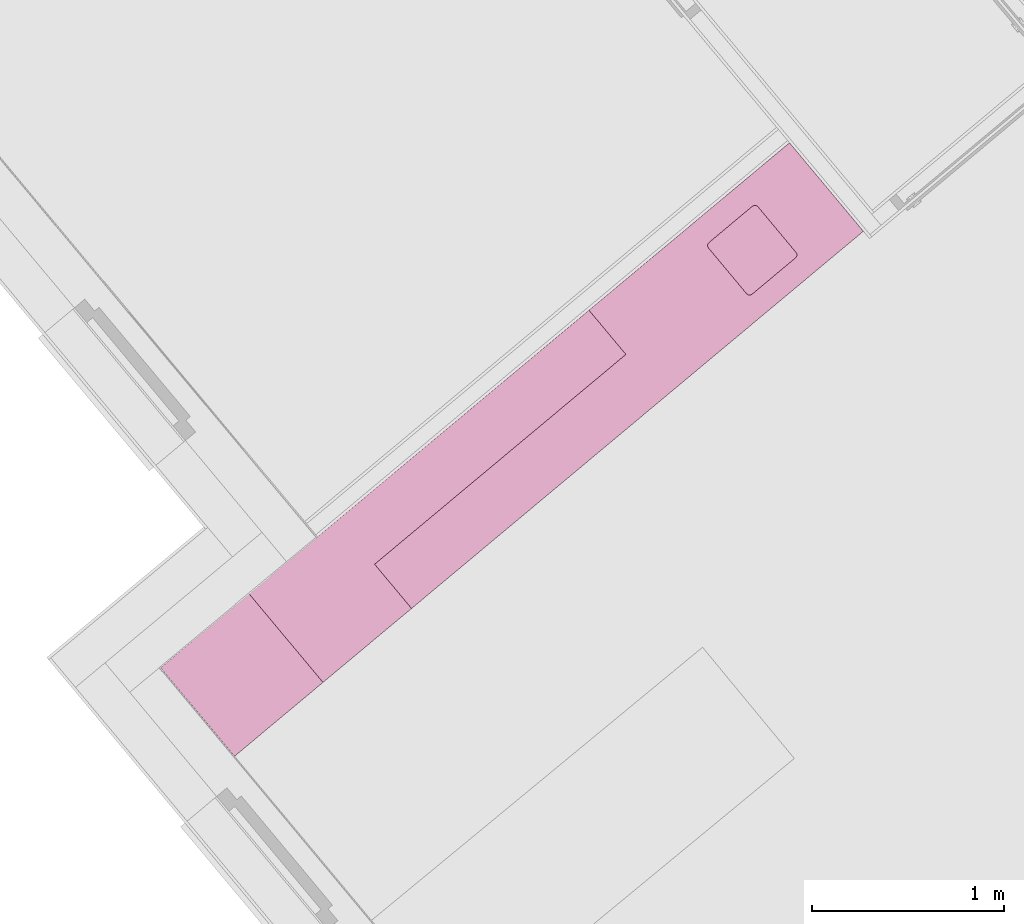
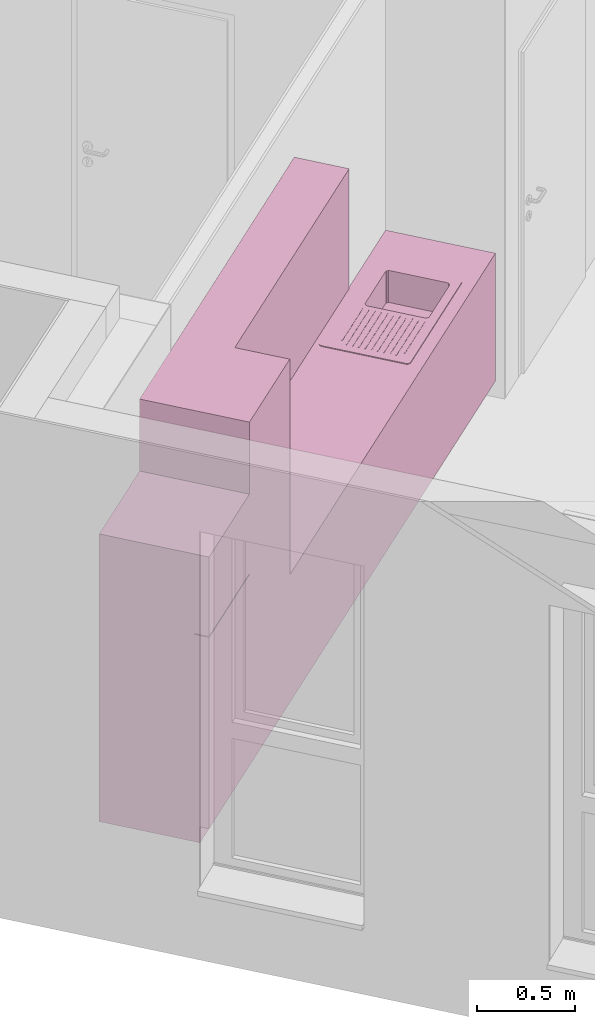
# One storey, part 53 of 53: 1 furniture element.
"""IFC4 building model written with IfcOpenShell, lengths in metres."""

from ifc_helpers import new_model, entity, si_unit, converted_unit, derived_unit, direction, frame, origin_with_axes, place, context, subcontext, project, spatial, polygons, type_object, element, save


model = new_model("IFC4")

# Units and contexts
model_context = context("Model", 3, precision=1e-05, world=origin_with_axes(), true_north=direction((0.0, 1.0)))
body_context = subcontext(model_context, "Body", "Model", "MODEL_VIEW")
ifc_project = project(units=[si_unit("LENGTHUNIT", "METRE"), si_unit("AREAUNIT", "SQUARE_METRE"), si_unit("VOLUMEUNIT", "CUBIC_METRE"), converted_unit("PLANEANGLEUNIT", "DEGREE", entity("IfcPlaneAngleMeasure", 0.0174532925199), si_unit("PLANEANGLEUNIT", "RADIAN"), dimensions=[0, 0, 0, 0, 0, 0, 0]), converted_unit("TIMEUNIT", "Year", entity("IfcTimeMeasure", 31556926.0), si_unit("TIMEUNIT", "SECOND"), dimensions=[0, 0, 1, 0, 0, 0, 0]), si_unit("MASSUNIT", "GRAM", prefix="KILO"), si_unit("THERMODYNAMICTEMPERATUREUNIT", "DEGREE_CELSIUS"), si_unit("LUMINOUSINTENSITYUNIT", "LUMEN"), si_unit("ENERGYUNIT", "JOULE", prefix="MEGA"), derived_unit("THERMALCONDUCTANCEUNIT", [(si_unit("POWERUNIT", "WATT"), 1), (si_unit("LENGTHUNIT", "METRE"), -1), (si_unit("THERMODYNAMICTEMPERATUREUNIT", "KELVIN"), -1)]), derived_unit("SPECIFICHEATCAPACITYUNIT", [(si_unit("ENERGYUNIT", "JOULE"), 1), (si_unit("MASSUNIT", "GRAM", prefix="KILO"), -1), (si_unit("THERMODYNAMICTEMPERATUREUNIT", "KELVIN"), -1)]), derived_unit("MASSDENSITYUNIT", [(si_unit("MASSUNIT", "GRAM", prefix="KILO"), 1), (si_unit("VOLUMEUNIT", "CUBIC_METRE"), -1)])], contexts=[model_context])

# Site, building, storey, space
site_placement = place(None, frame((-0.00153261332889, -0.00661245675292, 0.0), z_axis=(0.0, 0.0, 1.0), x_axis=(1.0, 0.0, 0.0)))
site = spatial("IfcSite", under=ifc_project, at=site_placement, Name="Gelände", CompositionType="ELEMENT")
building_placement = place(site_placement, origin_with_axes())
building = spatial("IfcBuilding", under=site, at=building_placement, Name="Gebäude", CompositionType="ELEMENT")
storey_placement = place(building_placement, frame((0.0, 0.0, 2.74), z_axis=(0.0, 0.0, 1.0), x_axis=(1.0, 0.0, 0.0)))
storey = spatial("IfcBuildingStorey", under=building, at=storey_placement, Name="OG1", CompositionType="ELEMENT", Elevation=2.74)
space_placement = place(storey_placement, frame((-4.88747385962, 15.1309660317, 0.22), z_axis=(0.0, 0.0, 1.0), x_axis=(-0.768971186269, -0.639283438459, 0.0)))
space = spatial("IfcSpace", under=storey, at=space_placement, CompositionType="ELEMENT", PredefinedType="NOTDEFINED")

# Furniture
furniture_type = type_object("IfcFurnitureType", Name="Konzeptküche 26", AssemblyPlace="NOTDEFINED", PredefinedType="NOTDEFINED")
furniture_placement = place(space_placement, frame((0.830139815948, -0.000580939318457, 0.0), z_axis=(0.0, 0.0, 1.0), x_axis=(0.999996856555, 0.00250736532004, 0.0)))
element("IfcFurniture", 1, at=furniture_placement, inside=space, type_object=furniture_type, Name="Objekt-0002", PredefinedType="NOTDEFINED", context=body_context, shape_type="Tessellation", body=[
    polygons([(-0.968214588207, 0.550000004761, 0.1), (-4.03014955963, 0.551334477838, 0.1), (-4.0303892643, 0.00133453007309, 0.1), (-0.96845429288, 5.69958804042e-08, 0.1), (-0.968214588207, 0.550000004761, 0.0), (-4.03014955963, 0.551334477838, 0.0), (-4.0303892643, 0.00133453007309, 0.0), (-0.96845429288, 5.69958804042e-08, 0.0)], [[[1, 2, 3, 4]], [[5, 6, 2, 1]], [[6, 7, 3, 2]], [[4, 3, 7, 8]], [[8, 5, 1, 4]], [[8, 7, 6, 5]]], closed=True),
    polygons([(-0.968192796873, 0.600000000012, 0.9), (-4.0301277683, 0.60133447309, 0.9), (-4.0303892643, 0.00133453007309, 0.9), (-0.96845429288, 5.69958804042e-08, 0.9), (-3.71560815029, 0.506197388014, 0.9), (-2.96560822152, 0.505870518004, 0.9), (-2.96580434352, 0.0558705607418, 0.9), (-3.71580427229, 0.0561974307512, 0.9), (-0.968192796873, 0.600000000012, 0.85), (-4.0301277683, 0.60133447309, 0.85), (-4.0303892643, 0.00133453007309, 0.85), (-0.96845429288, 5.69958804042e-08, 0.85), (-3.71560815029, 0.506197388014, 0.85), (-2.96560822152, 0.505870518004, 0.85), (-2.96580434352, 0.0558705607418, 0.85), (-3.71580427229, 0.0561974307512, 0.85)], [[[1, 2, 3, 4], [5, 6, 7, 8]], [[9, 10, 2, 1]], [[2, 10, 11, 3]], [[4, 3, 11, 12]], [[12, 9, 1, 4]], [[6, 5, 13, 14]], [[7, 6, 14, 15]], [[8, 7, 15, 16]], [[5, 8, 16, 13]], [[12, 11, 10, 9], [15, 14, 13, 16]]], closed=True),
    polygons([(-0.968192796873, 0.600000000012, 0.85), (-4.0301277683, 0.60133447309, 0.85), (-4.0303892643, 0.00133453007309, 0.85), (-0.96845429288, 5.69958804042e-08, 0.85), (-3.71560815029, 0.506197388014, 0.85), (-2.96560822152, 0.505870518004, 0.85), (-2.96580434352, 0.0558705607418, 0.85), (-3.71580427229, 0.0561974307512, 0.85), (-0.968192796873, 0.600000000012, 0.1), (-4.0301277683, 0.60133447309, 0.1), (-4.0303892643, 0.00133453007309, 0.1), (-0.96845429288, 5.69958804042e-08, 0.1), (-3.71560815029, 0.506197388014, 0.1), (-2.96560822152, 0.505870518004, 0.1), (-2.96580434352, 0.0558705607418, 0.1), (-3.71580427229, 0.0561974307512, 0.1)], [[[1, 2, 3, 4], [5, 6, 7, 8]], [[9, 10, 2, 1]], [[2, 10, 11, 3]], [[4, 3, 11, 12]], [[12, 9, 1, 4]], [[6, 5, 13, 14]], [[7, 6, 14, 15]], [[8, 7, 15, 16]], [[5, 8, 16, 13]], [[12, 11, 10, 9], [15, 14, 13, 16]]], closed=True),
    polygons([(-0.968323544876, 0.300000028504, 2.25), (-2.6710492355, 0.300742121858, 2.25), (-2.6711799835, 0.00074215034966, 2.25), (-0.96845429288, 5.69958804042e-08, 2.25), (-0.968323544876, 0.300000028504, 1.5), (-2.6710492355, 0.300742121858, 1.5), (-2.6711799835, 0.00074215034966, 1.5), (-0.96845429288, 5.69958804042e-08, 1.5)], [[[1, 2, 3, 4]], [[5, 6, 2, 1]], [[6, 7, 3, 2]], [[4, 3, 7, 8]], [[8, 5, 1, 4]], [[8, 7, 6, 5]]], closed=True),
    polygons([(-0.368227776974, 0.519738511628, 0.0), (-0.368227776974, 0.519738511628, 0.1), (-0.368214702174, 0.549738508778, 0.1), (-0.368214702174, 0.549738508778, 0.0), (0.231772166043, 0.51947701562, 0.0), (0.231772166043, 0.51947701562, 0.1), (0.231785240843, 0.549477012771, 0.1), (0.231785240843, 0.549477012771, 0.0)], [[[1, 2, 3, 4]], [[5, 6, 2, 1]], [[2, 6, 7, 3]], [[4, 3, 7, 8]], [[1, 4, 8, 5]], [[8, 7, 6, 5]]], closed=True),
    polygons([(-0.368227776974, 0.519738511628, 0.0), (-0.368227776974, 0.519738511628, 1.8), (0.231772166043, 0.51947701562, 1.8), (0.231772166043, 0.51947701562, 0.0), (-0.368454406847, -0.000261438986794, 0.0), (-0.368454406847, -0.000261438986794, 1.8), (0.231545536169, -0.000522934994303, 1.8), (0.231545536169, -0.000522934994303, 0.0)], [[[1, 2, 3, 4]], [[5, 6, 2, 1]], [[2, 6, 7, 3]], [[4, 3, 7, 8]], [[1, 4, 8, 5]], [[8, 7, 6, 5]]], closed=True),
    polygons([(-0.368227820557, 0.519638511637, 0.1), (-0.368227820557, 0.519638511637, 1.2975), (-0.36819291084, 0.59973850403, 1.2975), (-0.36819291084, 0.59973850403, 0.1), (0.23177212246, 0.51937701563, 0.1), (0.23177212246, 0.51937701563, 1.2975), (0.231807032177, 0.599477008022, 1.2975), (0.231807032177, 0.599477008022, 0.1)], [[[1, 2, 3, 4]], [[5, 6, 2, 1]], [[2, 6, 7, 3]], [[4, 3, 7, 8]], [[1, 4, 8, 5]], [[8, 7, 6, 5]]], closed=True),
    polygons([(-0.368227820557, 0.519638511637, 1.3025), (-0.368227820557, 0.519638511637, 1.8), (-0.36819291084, 0.59973850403, 1.8), (-0.36819291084, 0.59973850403, 1.3025), (0.23177212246, 0.51937701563, 1.3025), (0.23177212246, 0.51937701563, 1.8), (0.231807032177, 0.599477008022, 1.8), (0.231807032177, 0.599477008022, 1.3025)], [[[1, 2, 3, 4]], [[5, 6, 2, 1]], [[2, 6, 7, 3]], [[4, 3, 7, 8]], [[1, 4, 8, 5]], [[8, 7, 6, 5]]], closed=True),
    polygons([(-3.67061905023, 0.481177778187, 0.705), (-3.67061905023, 0.481177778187, 0.9), (-3.37561907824, 0.481049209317, 0.9), (-3.37561907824, 0.481049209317, 0.705), (-3.67827338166, 0.479658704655, 0.705), (-3.67827338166, 0.479658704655, 0.9), (-3.36796607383, 0.479523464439, 0.9), (-3.36796607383, 0.479523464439, 0.705), (-3.36147949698, 0.475185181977, 0.705), (-3.35714687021, 0.46869482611, 0.705), (-3.35562779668, 0.461040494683, 0.705), (-3.35576290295, 0.151040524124, 0.705), (-3.35728864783, 0.14338751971, 0.705), (-3.36162693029, 0.136900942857, 0.705), (-3.36811728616, 0.13256831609, 0.705), (-3.37577161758, 0.131049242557, 0.705), (-3.67077158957, 0.131177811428, 0.705), (-3.67842459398, 0.132703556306, 0.705), (-3.68491117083, 0.137041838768, 0.705), (-3.6892437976, 0.143532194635, 0.705), (-3.69076287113, 0.151186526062, 0.705), (-3.69062776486, 0.46118649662, 0.705), (-3.68910201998, 0.468839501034, 0.705), (-3.68476373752, 0.475326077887, 0.705), (-3.68476373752, 0.475326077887, 0.9), (-3.36147949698, 0.475185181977, 0.9), (-3.35714687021, 0.46869482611, 0.9), (-3.35562779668, 0.461040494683, 0.9), (-3.35576290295, 0.151040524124, 0.9), (-3.35728864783, 0.14338751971, 0.9), (-3.36162693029, 0.136900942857, 0.9), (-3.36811728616, 0.13256831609, 0.9), (-3.37577161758, 0.131049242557, 0.9), (-3.67077158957, 0.131177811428, 0.9), (-3.67842459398, 0.132703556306, 0.9), (-3.68491117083, 0.137041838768, 0.9), (-3.6892437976, 0.143532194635, 0.9), (-3.69076287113, 0.151186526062, 0.9), (-3.69062776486, 0.46118649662, 0.9), (-3.68910201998, 0.468839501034, 0.9)], [[[1, 2, 3, 4]], [[5, 6, 2, 1]], [[4, 3, 7, 8]], [[1, 4, 8, 9, 10, 11, 12, 13, 14, 15, 16, 17, 18, 19, 20, 21, 22, 23, 24, 5]], [[24, 25, 6, 5]], [[8, 7, 26, 9]], [[9, 26, 27, 10]], [[10, 27, 28, 11]], [[11, 28, 29, 12]], [[12, 29, 30, 13]], [[13, 30, 31, 14]], [[14, 31, 32, 15]], [[15, 32, 33, 16]], [[16, 33, 34, 17]], [[17, 34, 35, 18]], [[18, 35, 36, 19]], [[19, 36, 37, 20]], [[20, 37, 38, 21]], [[21, 38, 39, 22]], [[22, 39, 40, 23]], [[23, 40, 25, 24]]], closed=False),
    polygons([(-3.72059725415, 0.531199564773, 0.9), (-3.72059725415, 0.531199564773, 0.905), (-2.96059732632, 0.530868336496, 0.905), (-2.96059732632, 0.530868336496, 0.9), (-3.72825158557, 0.52968049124, 0.9), (-3.72825158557, 0.52968049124, 0.905), (-3.73474194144, 0.525347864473, 0.905), (-3.7390802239, 0.518861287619, 0.905), (-3.74060596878, 0.511208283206, 0.905), (-3.74080644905, 0.051208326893, 0.905), (-3.73928737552, 0.043553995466, 0.905), (-3.73495474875, 0.0370636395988, 0.905), (-3.7284681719, 0.032725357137, 0.905), (-3.72081516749, 0.0311996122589, 0.905), (-2.96081523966, 0.0308683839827, 0.905), (-2.95316090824, 0.0323874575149, 0.905), (-2.94667055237, 0.0367200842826, 0.905), (-2.94233226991, 0.0432066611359, 0.905), (-2.94080652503, 0.0508596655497, 0.905), (-2.94060604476, 0.510859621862, 0.905), (-2.94212511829, 0.518513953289, 0.905), (-2.94645774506, 0.525004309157, 0.905), (-2.95294432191, 0.529342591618, 0.905), (-3.67061905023, 0.481177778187, 0.905), (-3.37561907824, 0.481049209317, 0.905), (-3.36796607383, 0.479523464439, 0.905), (-3.36147949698, 0.475185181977, 0.905), (-3.35714687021, 0.46869482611, 0.905), (-3.35562779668, 0.461040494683, 0.905), (-3.35576290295, 0.151040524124, 0.905), (-3.35728864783, 0.14338751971, 0.905), (-3.36162693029, 0.136900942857, 0.905), (-3.36811728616, 0.13256831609, 0.905), (-3.37577161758, 0.131049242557, 0.905), (-3.67077158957, 0.131177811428, 0.905), (-3.67842459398, 0.132703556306, 0.905), (-3.68491117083, 0.137041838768, 0.905), (-3.6892437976, 0.143532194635, 0.905), (-3.69076287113, 0.151186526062, 0.905), (-3.69062776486, 0.46118649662, 0.905), (-3.68910201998, 0.468839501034, 0.905), (-3.68476373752, 0.475326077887, 0.905), (-3.67827338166, 0.479658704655, 0.905), (-2.95294432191, 0.529342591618, 0.9), (-2.94645774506, 0.525004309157, 0.9), (-2.94212511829, 0.518513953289, 0.9), (-2.94060604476, 0.510859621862, 0.9), (-2.94080652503, 0.0508596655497, 0.9), (-2.94233226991, 0.0432066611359, 0.9), (-2.94667055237, 0.0367200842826, 0.9), (-2.95316090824, 0.0323874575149, 0.9), (-2.96081523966, 0.0308683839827, 0.9), (-3.72081516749, 0.0311996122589, 0.9), (-3.7284681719, 0.032725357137, 0.9), (-3.73495474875, 0.0370636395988, 0.9), (-3.73928737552, 0.043553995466, 0.9), (-3.74080644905, 0.051208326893, 0.9), (-3.74060596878, 0.511208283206, 0.9), (-3.7390802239, 0.518861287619, 0.9), (-3.73474194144, 0.525347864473, 0.9), (-3.67061905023, 0.481177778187, 0.9), (-3.67827338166, 0.479658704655, 0.9), (-3.68476373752, 0.475326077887, 0.9), (-3.68910201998, 0.468839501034, 0.9), (-3.69062776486, 0.46118649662, 0.9), (-3.69076287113, 0.151186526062, 0.9), (-3.6892437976, 0.143532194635, 0.9), (-3.68491117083, 0.137041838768, 0.9), (-3.67842459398, 0.132703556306, 0.9), (-3.67077158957, 0.131177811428, 0.9), (-3.37577161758, 0.131049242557, 0.9), (-3.36811728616, 0.13256831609, 0.9), (-3.36162693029, 0.136900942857, 0.9), (-3.35728864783, 0.14338751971, 0.9), (-3.35576290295, 0.151040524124, 0.9), (-3.35562779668, 0.461040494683, 0.9), (-3.35714687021, 0.46869482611, 0.9), (-3.36147949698, 0.475185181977, 0.9), (-3.36796607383, 0.479523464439, 0.9), (-3.37561907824, 0.481049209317, 0.9)], [[[1, 2, 3, 4]], [[5, 6, 2, 1]], [[2, 6, 7, 8, 9, 10, 11, 12, 13, 14, 15, 16, 17, 18, 19, 20, 21, 22, 23, 3], [24, 25, 26, 27, 28, 29, 30, 31, 32, 33, 34, 35, 36, 37, 38, 39, 40, 41, 42, 43]], [[4, 3, 23, 44]], [[1, 4, 44, 45, 46, 47, 48, 49, 50, 51, 52, 53, 54, 55, 56, 57, 58, 59, 60, 5], [61, 62, 63, 64, 65, 66, 67, 68, 69, 70, 71, 72, 73, 74, 75, 76, 77, 78, 79, 80]], [[60, 7, 6, 5]], [[59, 8, 7, 60]], [[58, 9, 8, 59]], [[57, 10, 9, 58]], [[56, 11, 10, 57]], [[55, 12, 11, 56]], [[54, 13, 12, 55]], [[53, 14, 13, 54]], [[52, 15, 14, 53]], [[51, 16, 15, 52]], [[50, 17, 16, 51]], [[49, 18, 17, 50]], [[48, 19, 18, 49]], [[47, 20, 19, 48]], [[46, 21, 20, 47]], [[45, 22, 21, 46]], [[44, 23, 22, 45]], [[80, 25, 24, 61]], [[79, 26, 25, 80]], [[78, 27, 26, 79]], [[77, 28, 27, 78]], [[76, 29, 28, 77]], [[75, 30, 29, 76]], [[74, 31, 30, 75]], [[73, 32, 31, 74]], [[72, 33, 32, 73]], [[71, 34, 33, 72]], [[70, 35, 34, 71]], [[69, 36, 35, 70]], [[68, 37, 36, 69]], [[67, 38, 37, 68]], [[66, 39, 38, 67]], [[65, 40, 39, 66]], [[64, 41, 40, 65]], [[63, 42, 41, 64]], [[62, 43, 42, 63]], [[61, 24, 43, 62]]], closed=True),
    polygons([(-3.32562126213, 0.476027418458, 0.905), (-3.32562126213, 0.476027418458, 0.907), (-3.02062129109, 0.475894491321, 0.907), (-3.02062129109, 0.475894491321, 0.905), (-3.32562344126, 0.471027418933, 0.905), (-3.32562344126, 0.471027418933, 0.907), (-3.02062347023, 0.470894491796, 0.907), (-3.02062347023, 0.470894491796, 0.905)], [[[1, 2, 3, 4]], [[5, 6, 2, 1]], [[2, 6, 7, 3]], [[4, 3, 7, 8]], [[1, 4, 8, 5]], [[8, 7, 6, 5]]], closed=True),
    polygons([(-3.32563608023, 0.442027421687, 0.905), (-3.32563608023, 0.442027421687, 0.907), (-2.99063611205, 0.441881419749, 0.907), (-2.99063611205, 0.441881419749, 0.905), (-3.32563825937, 0.437027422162, 0.905), (-3.32563825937, 0.437027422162, 0.907), (-2.99063829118, 0.436881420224, 0.907), (-2.99063829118, 0.436881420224, 0.905)], [[[1, 2, 3, 4]], [[5, 6, 2, 1]], [[2, 6, 7, 3]], [[4, 3, 7, 8]], [[1, 4, 8, 5]], [[8, 7, 6, 5]]], closed=True),
    polygons([(-3.32565089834, 0.408027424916, 0.905), (-3.32565089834, 0.408027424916, 0.907), (-2.99065093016, 0.407881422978, 0.907), (-2.99065093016, 0.407881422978, 0.905), (-3.32565307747, 0.403027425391, 0.905), (-3.32565307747, 0.403027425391, 0.907), (-2.99065310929, 0.402881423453, 0.907), (-2.99065310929, 0.402881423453, 0.905)], [[[1, 2, 3, 4]], [[5, 6, 2, 1]], [[2, 6, 7, 3]], [[4, 3, 7, 8]], [[1, 4, 8, 5]], [[8, 7, 6, 5]]], closed=True),
    polygons([(-3.32566571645, 0.374027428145, 0.905), (-3.32566571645, 0.374027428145, 0.907), (-2.99066574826, 0.373881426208, 0.907), (-2.99066574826, 0.373881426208, 0.905), (-3.32566789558, 0.36902742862, 0.905), (-3.32566789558, 0.36902742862, 0.907), (-2.9906679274, 0.368881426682, 0.907), (-2.9906679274, 0.368881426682, 0.905)], [[[1, 2, 3, 4]], [[5, 6, 2, 1]], [[2, 6, 7, 3]], [[4, 3, 7, 8]], [[1, 4, 8, 5]], [[8, 7, 6, 5]]], closed=True),
    polygons([(-3.32568053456, 0.340027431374, 0.905), (-3.32568053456, 0.340027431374, 0.907), (-2.99068056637, 0.339881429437, 0.907), (-2.99068056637, 0.339881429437, 0.905), (-3.32568271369, 0.335027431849, 0.905), (-3.32568271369, 0.335027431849, 0.907), (-2.9906827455, 0.334881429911, 0.907), (-2.9906827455, 0.334881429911, 0.905)], [[[1, 2, 3, 4]], [[5, 6, 2, 1]], [[2, 6, 7, 3]], [[4, 3, 7, 8]], [[1, 4, 8, 5]], [[8, 7, 6, 5]]], closed=True),
    polygons([(-3.32569535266, 0.306027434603, 0.905), (-3.32569535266, 0.306027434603, 0.907), (-2.99069538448, 0.305881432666, 0.907), (-2.99069538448, 0.305881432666, 0.905), (-3.3256975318, 0.301027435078, 0.905), (-3.3256975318, 0.301027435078, 0.907), (-2.99069756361, 0.300881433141, 0.907), (-2.99069756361, 0.300881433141, 0.905)], [[[1, 2, 3, 4]], [[5, 6, 2, 1]], [[2, 6, 7, 3]], [[4, 3, 7, 8]], [[1, 4, 8, 5]], [[8, 7, 6, 5]]], closed=True),
    polygons([(-3.32571017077, 0.272027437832, 0.905), (-3.32571017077, 0.272027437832, 0.907), (-2.99071020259, 0.271881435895, 0.907), (-2.99071020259, 0.271881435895, 0.905), (-3.3257123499, 0.267027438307, 0.905), (-3.3257123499, 0.267027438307, 0.907), (-2.99071238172, 0.26688143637, 0.907), (-2.99071238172, 0.26688143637, 0.905)], [[[1, 2, 3, 4]], [[5, 6, 2, 1]], [[2, 6, 7, 3]], [[4, 3, 7, 8]], [[1, 4, 8, 5]], [[8, 7, 6, 5]]], closed=True),
    polygons([(-3.32572498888, 0.238027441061, 0.905), (-3.32572498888, 0.238027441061, 0.907), (-2.99072502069, 0.237881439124, 0.907), (-2.99072502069, 0.237881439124, 0.905), (-3.32572716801, 0.233027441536, 0.905), (-3.32572716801, 0.233027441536, 0.907), (-2.99072719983, 0.232881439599, 0.907), (-2.99072719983, 0.232881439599, 0.905)], [[[1, 2, 3, 4]], [[5, 6, 2, 1]], [[2, 6, 7, 3]], [[4, 3, 7, 8]], [[1, 4, 8, 5]], [[8, 7, 6, 5]]], closed=True),
    polygons([(-3.32573980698, 0.20402744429, 0.905), (-3.32573980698, 0.20402744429, 0.907), (-2.9907398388, 0.203881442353, 0.907), (-2.9907398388, 0.203881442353, 0.905), (-3.32574198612, 0.199027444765, 0.905), (-3.32574198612, 0.199027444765, 0.907), (-2.99074201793, 0.198881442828, 0.907), (-2.99074201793, 0.198881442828, 0.905)], [[[1, 2, 3, 4]], [[5, 6, 2, 1]], [[2, 6, 7, 3]], [[4, 3, 7, 8]], [[1, 4, 8, 5]], [[8, 7, 6, 5]]], closed=True),
    polygons([(-3.32575462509, 0.170027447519, 0.905), (-3.32575462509, 0.170027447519, 0.907), (-2.99075465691, 0.169881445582, 0.907), (-2.99075465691, 0.169881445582, 0.905), (-3.32575680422, 0.165027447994, 0.905), (-3.32575680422, 0.165027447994, 0.907), (-2.99075683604, 0.164881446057, 0.907), (-2.99075683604, 0.164881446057, 0.905)], [[[1, 2, 3, 4]], [[5, 6, 2, 1]], [[2, 6, 7, 3]], [[4, 3, 7, 8]], [[1, 4, 8, 5]], [[8, 7, 6, 5]]], closed=True),
    polygons([(-3.3257694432, 0.136027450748, 0.905), (-3.3257694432, 0.136027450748, 0.907), (-3.02076947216, 0.135894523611, 0.907), (-3.02076947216, 0.135894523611, 0.905), (-3.32577162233, 0.131027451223, 0.905), (-3.32577162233, 0.131027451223, 0.907), (-3.0207716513, 0.130894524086, 0.907), (-3.0207716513, 0.130894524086, 0.905)], [[[1, 2, 3, 4]], [[5, 6, 2, 1]], [[2, 6, 7, 3]], [[4, 3, 7, 8]], [[1, 4, 8, 5]], [[8, 7, 6, 5]]], closed=True),
    polygons([(-0.968214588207, 0.550000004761, 0.0), (-0.968214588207, 0.550000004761, 0.1), (-0.36821464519, 0.549738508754, 0.1), (-0.36821464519, 0.549738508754, 0.0), (-0.96845429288, 5.69958804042e-08, 0.0), (-0.96845429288, 5.69958804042e-08, 0.1), (-0.368454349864, -0.000261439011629, 0.1), (-0.368454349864, -0.000261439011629, 0.0)], [[[1, 2, 3, 4]], [[5, 6, 2, 1]], [[2, 6, 7, 3]], [[4, 3, 7, 8]], [[1, 4, 8, 5]], [[8, 7, 6, 5]]], closed=True),
    polygons([(-0.968192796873, 0.600000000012, 0.1), (-0.968192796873, 0.600000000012, 2.25), (-0.368192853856, 0.599738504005, 2.25), (-0.368192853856, 0.599738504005, 0.1), (-0.96845429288, 5.69958804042e-08, 0.1), (-0.96845429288, 5.69958804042e-08, 2.25), (-0.368454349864, -0.000261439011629, 2.25), (-0.368454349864, -0.000261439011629, 0.1)], [[[1, 2, 3, 4]], [[5, 6, 2, 1]], [[2, 6, 7, 3]], [[4, 3, 7, 8]], [[1, 4, 8, 5]], [[8, 7, 6, 5]]], closed=True),
])

save(model, "model.ifc")
